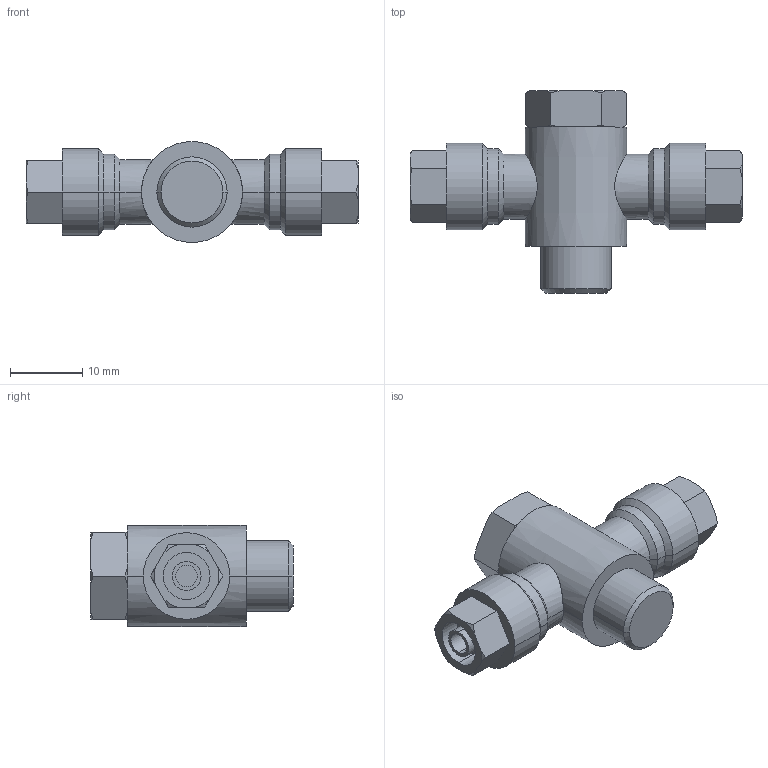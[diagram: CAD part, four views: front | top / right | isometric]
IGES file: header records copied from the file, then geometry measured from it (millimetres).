
Start section:  PTC IGES file: 1823391004.igs
Global section: file name: 1823391004.igs; native system: Pro/ENGINEER by Parametric Technology Corporation; preprocessor: 2009380; author: vol1hc; organization: Unknown; date: 20150408.181305; units: millimetre
Bounding box: 46 x 28 x 14 mm (x, y, z)
Surface area: 2907 mm2 (no closed solid volume)
Topology: 0 solids, 0 shells, 94 faces, 448 edges, 448 vertices
Faces by surface type: revolution 62, bspline 32
